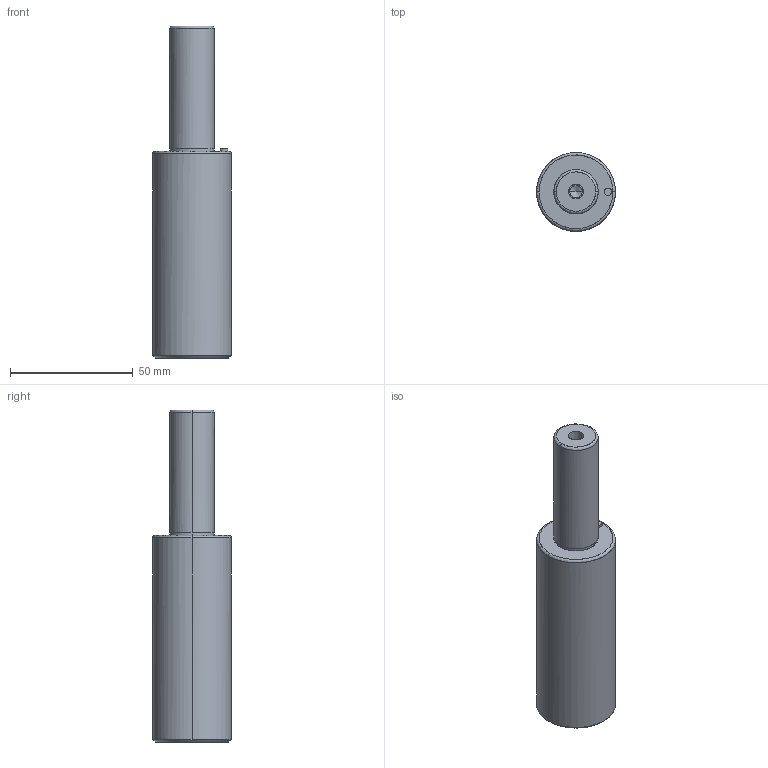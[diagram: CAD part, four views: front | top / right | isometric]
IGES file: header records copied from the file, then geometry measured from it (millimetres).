
Global section: file name: E:\UnigraphicsGraphicData\MISUMI_PRESS-PARTS\IGES\3d_gsc32-50_03843_r00.igs; native system: NX V5.0; preprocessor: UGS NX IGES V5.0; author: MISUMI; date: 20110105.160745; units: millimetre
Bounding box: 32 x 31.94 x 135 mm (x, y, z)
Surface area: 13219.9 mm2 (no closed solid volume)
Topology: 0 solids, 0 shells, 32 faces, 216 edges, 212 vertices
Faces by surface type: bspline 32
